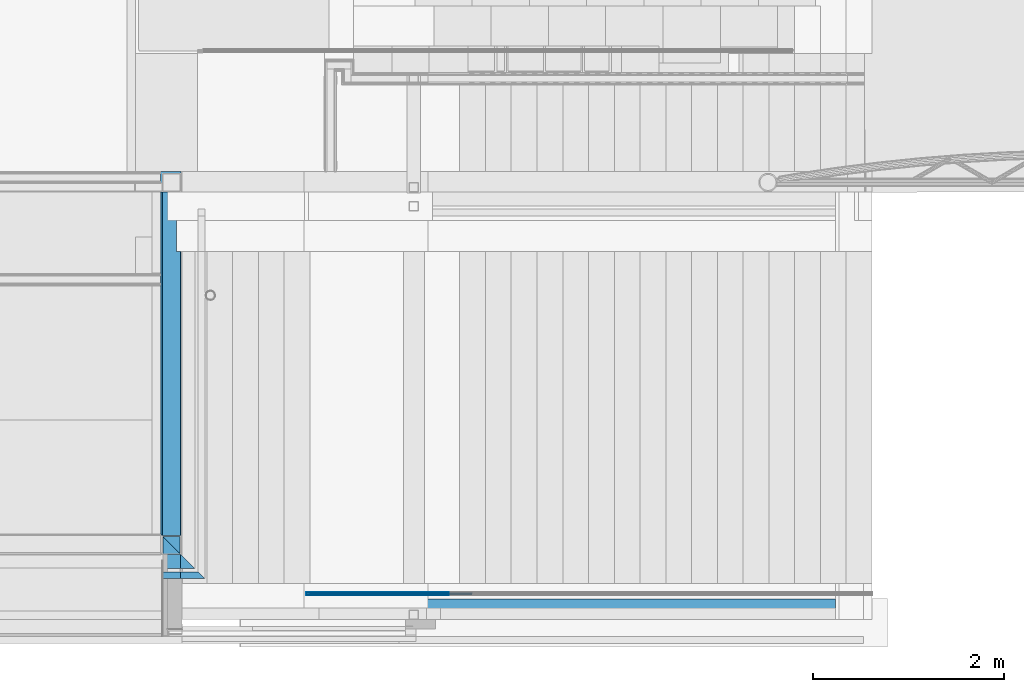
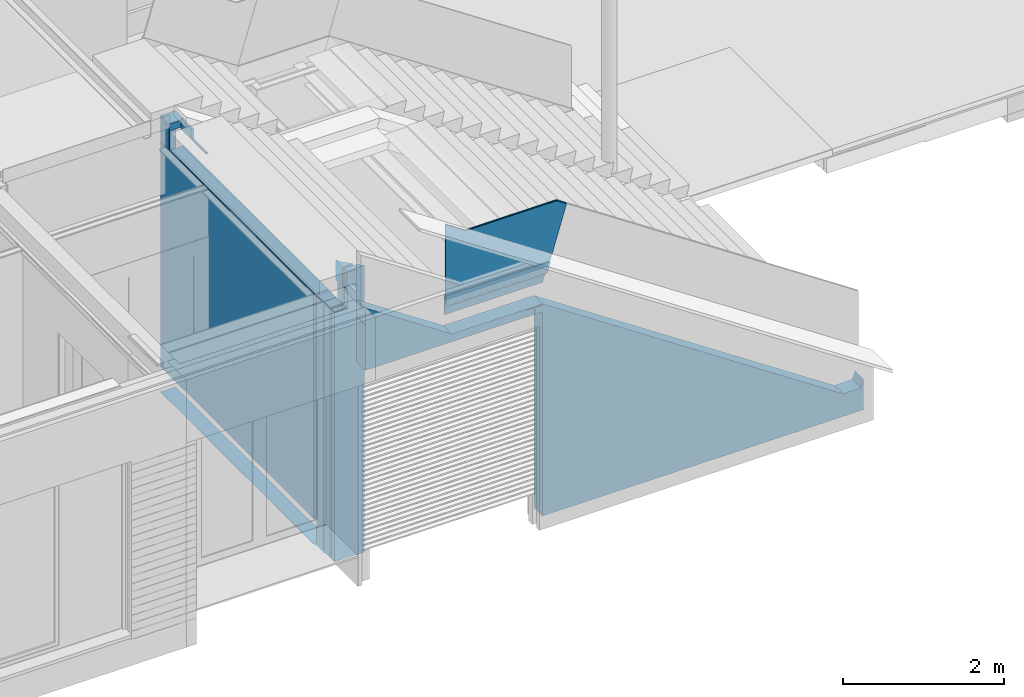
# One storey, part 46 of 165: 10 building element parts, 2 openings, 5 elements without a shape of their own.
"""IFC2X3 building model written with IfcOpenShell, lengths in millimetres."""

from ifc_helpers import new_model, entity, si_unit, converted_unit, derived_unit, money_unit, direction, frame, origin_with_axes, place, context, subcontext, project, spatial, faceted_brep, material, type_object, element, aggregate, save


model = new_model("IFC2X3")

# Units and contexts
model_context = context("Model", 3, precision=0.01, world=origin_with_axes(), true_north=direction((0.0, 1.0)))
body_context = subcontext(model_context, "Body", "Model", "MODEL_VIEW")
ifc_project = project(units=[si_unit("LENGTHUNIT", "METRE", prefix="MILLI"), si_unit("AREAUNIT", "SQUARE_METRE"), si_unit("VOLUMEUNIT", "CUBIC_METRE"), converted_unit("PLANEANGLEUNIT", "DEGREE", entity("IfcPlaneAngleMeasure", 0.0174532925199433), si_unit("PLANEANGLEUNIT", "RADIAN"), dimensions=[0, 0, 0, 0, 0, 0, 0]), money_unit("EUR"), converted_unit("TIMEUNIT", "Year", entity("IfcTimeMeasure", 31556926.0), si_unit("TIMEUNIT", "SECOND"), dimensions=[0, 0, 1, 0, 0, 0, 0]), si_unit("MASSUNIT", "GRAM", prefix="KILO"), si_unit("THERMODYNAMICTEMPERATUREUNIT", "DEGREE_CELSIUS"), si_unit("LUMINOUSINTENSITYUNIT", "LUMEN"), si_unit("ENERGYUNIT", "JOULE", prefix="MEGA"), derived_unit("THERMALCONDUCTANCEUNIT", [(si_unit("POWERUNIT", "WATT"), 1), (si_unit("LENGTHUNIT", "METRE"), -1), (si_unit("THERMODYNAMICTEMPERATUREUNIT", "KELVIN"), -1)]), derived_unit("SPECIFICHEATCAPACITYUNIT", [(si_unit("ENERGYUNIT", "JOULE"), 1), (si_unit("MASSUNIT", "GRAM", prefix="KILO"), -1), (si_unit("THERMODYNAMICTEMPERATUREUNIT", "KELVIN"), -1)]), derived_unit("MASSDENSITYUNIT", [(si_unit("MASSUNIT", "GRAM", prefix="KILO"), 1), (si_unit("VOLUMEUNIT", "CUBIC_METRE"), -1)])], contexts=[model_context])

# Site, building, storey
site_placement = place(None, origin_with_axes())
site = spatial("IfcSite", under=ifc_project, at=site_placement, Name="Site", CompositionType="ELEMENT")
building_placement = place(site_placement, origin_with_axes())
building = spatial("IfcBuilding", under=site, at=building_placement, Name="Naam gebouw", CompositionType="ELEMENT")
storey_placement = place(building_placement, origin_with_axes())
storey = spatial("IfcBuildingStorey", under=building, at=storey_placement, Name="Begane grond", CompositionType="ELEMENT", Elevation=0.0)

# Wall, building element part
wall_type_1 = type_object("IfcWallType", Name="21 Buitenwand spouwmuur kalkzandsteen 464", PredefinedType="NOTDEFINED")
wall_1_placement = place(storey_placement, frame((11550.0, 679.9999999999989, -485.0), z_axis=(0.0, 0.0, 1.0), x_axis=(0.0, 1.0, 0.0)))
wall_1 = element("IfcWall", 1, at=wall_1_placement, inside=storey, type_object=wall_type_1, Name="21_Wand-x")
ifc_material_1 = material(Name="Steen - Kalkzandsteen C")
building_element_part_1_placement = place(wall_1_placement, origin_with_axes())
building_element_part_1 = element("IfcBuildingElementPart", 2, at=building_element_part_1_placement, material=ifc_material_1, Name="Steen - Kalkzandsteen C", context=body_context, shape_type="Brep", body=[
    faceted_brep([(3549.982367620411, 47.75988148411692, 4223.198134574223), (3549.982367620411, 0.0, 4191.358213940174), (3800.000000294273, 0.0, 4191.358213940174), (3799.999994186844, 5.462679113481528, 4194.999999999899), (3799.999999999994, 47.75988115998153, 4223.198134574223), (3549.982367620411, 0.0, 4055.000000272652), (3549.982367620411, 47.75988148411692, 4080.777949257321), (3549.982367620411, 9.092957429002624, 4055.0), (3800.0, 0.0, 4055.000000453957), (3800.0, 0.0, 4084.999999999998), (3999.999999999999, 0.0, 4084.999999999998), (3999.999999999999, 0.0, 4055.000000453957), (3999.999999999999, 0.0, 3775.000000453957), (3999.999999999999, 0.0, 384.9999999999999), (4014.0, 2.788986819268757e-07, 384.9999999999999), (4014.0, 2.788986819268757e-07, 4194.999999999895), (3799.999993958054, 2.075850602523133e-08, 4194.999999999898), (3799.999999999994, 47.75988115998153, 4194.999999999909), (3799.999999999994, 47.75988115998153, 4084.999999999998), (3799.999999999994, 47.75988115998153, 4055.0), (3174.000000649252, 47.75988115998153, 4055.0), (3174.000000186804, 47.75988148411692, 4080.777949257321), (3174.000000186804, 9.092957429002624, 4055.0), (3799.999999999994, 199.9999999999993, 4084.999999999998), (3999.999999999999, 199.9999999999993, 4084.999999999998), (3999.999999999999, 213.9999762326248, 3775.000000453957), (3999.999999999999, 199.9999999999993, 3775.000000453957), (3999.999999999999, 199.9999999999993, 384.9999999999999), (3999.999999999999, 199.9999999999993, 4055.000000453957), (3999.999999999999, 200.9999999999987, 4055.000000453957), (3999.999999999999, 200.9999999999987, 3790.000000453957), (3999.999999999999, 213.9999762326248, 3790.000000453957), (200.0000000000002, 199.9999999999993, 384.9999999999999), (213.9999762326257, 213.9999762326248, 384.9999999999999), (4014.0, 213.9999993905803, 384.9999999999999), (3800.0, 199.9999999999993, 384.9999999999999), (3800.001049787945, -1.527666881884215e-10, 384.9999999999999), (200.0000000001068, 0.0006153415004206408, 384.9999999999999), (4014.0, 213.9999993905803, 4194.999999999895), (3810.0, 199.9999999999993, 4194.999999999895), (3799.999999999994, 199.9999999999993, 4194.999999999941), (3810.0, 213.9999762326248, 4194.999999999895), (3799.999999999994, 199.9999999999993, 4130.000000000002), (3799.999999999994, 213.9999762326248, 4130.000000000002), (3799.999999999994, 213.9999762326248, 4055.0), (3799.999999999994, 200.9999999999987, 4055.0), (3799.999999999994, 199.9999999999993, 4055.0), (200.0000000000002, 0.0, 3775.000000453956), (3800.0, 0.0, 3775.000000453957), (3800.0, 199.9999999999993, 3775.000000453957), (213.9999762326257, 213.9999762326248, 3775.000000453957), (200.0000000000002, 199.9999999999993, 3775.000000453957), (3799.999999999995, 200.9999999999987, 3795.0), (201.0000007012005, 200.9999999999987, 3795.0), (201.0000115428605, 200.999999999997, 3790.000000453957), (213.9999762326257, 213.9999762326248, 3790.000000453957), (3799.999999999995, 213.9999762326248, 3795.0), (3900.0, 213.9999762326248, 4130.000000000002), (3900.0, 213.9999762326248, 4140.000000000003), (3810.0, 213.9999762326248, 4140.000000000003), (213.9999762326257, 213.9999762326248, 3795.0), (3900.0, 199.9999999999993, 4130.000000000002), (3810.0, 199.9999999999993, 4140.000000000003), (3900.0, 199.9999999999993, 4140.000000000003)], [[[0, 1, 2, 3, 4]], [[5, 1, 0, 6, 7]], [[1, 5, 8, 9, 10, 11, 12, 13, 14, 15, 16, 2]], [[2, 16, 3]], [[3, 17, 4]], [[6, 0, 4, 17, 18, 19, 20, 21]], [[22, 7, 6, 21]], [[7, 22, 20, 19, 8, 5]], [[8, 19, 18, 9]], [[9, 18, 23, 24, 10]], [[25, 26, 27, 13, 12, 11, 10, 24, 28, 29, 30, 31]], [[32, 33, 34, 14, 13, 27, 35, 36, 37]], [[38, 15, 14, 34]], [[39, 40, 17, 3, 16, 15, 38, 41]], [[18, 17, 40, 42, 43, 44, 45, 46, 23]], [[22, 21, 20]], [[24, 23, 46, 28]], [[47, 48, 49, 26, 25, 50, 51]], [[26, 49, 35, 27]], [[28, 46, 45, 29]], [[29, 45, 52, 53, 54, 30]], [[55, 31, 30, 54]], [[56, 44, 43, 57, 58, 59, 41, 38, 34, 33, 50, 25, 31, 55, 60]], [[51, 50, 33, 32]], [[49, 48, 36, 35]], [[48, 47, 37, 36]], [[47, 51, 32, 37]], [[61, 42, 40, 39, 62, 63]], [[39, 41, 59, 62]], [[57, 43, 42, 61]], [[52, 45, 44, 56]], [[52, 56, 60, 53]], [[53, 60, 55, 54]], [[57, 61, 63, 58]], [[58, 63, 62, 59]]]),
    faceted_brep([(200.0000000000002, 194.9999999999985, 3795.0), (200.0000000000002, 4.999999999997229, 3795.0), (3800.0, 4.999999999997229, 3795.0), (3800.0, 194.9999999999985, 3795.0), (200.0000000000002, 4.999999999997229, 3790.000000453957), (200.0000000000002, 194.9999999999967, 3790.000000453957), (3800.0, 4.999999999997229, 3790.000000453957), (3800.0, 194.9999999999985, 3790.000000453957)], [[[0, 1, 2, 3]], [[4, 1, 0, 5]], [[1, 4, 6, 2]], [[3, 2, 6, 7]], [[5, 0, 3, 7]], [[4, 5, 7, 6]]]),
    faceted_brep([(4014.0, 213.9999993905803, 5.000000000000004), (4014.0, 2.788986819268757e-07, 5.000000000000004), (4014.0, 2.788986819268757e-07, 0.0), (4014.0, 213.9999993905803, 0.0), (3999.999999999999, 0.0, 5.000000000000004), (213.9999762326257, 213.9999762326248, 5.000000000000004), (200.0000000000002, 199.9999999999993, 5.000000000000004), (199.9999999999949, 0.0006153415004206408, 5.000000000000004), (3800.001049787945, -1.527666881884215e-10, 5.000000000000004), (3800.0, 199.9999999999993, 5.000000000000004), (3999.999999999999, 199.9999999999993, 5.000000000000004), (0.0, 0.0, 4.99999999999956), (1.147390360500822e-05, 1.147390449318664e-05, 0.0), (213.9999762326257, 213.9999762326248, 0.0)], [[[0, 1, 2, 3]], [[4, 1, 0, 5, 6, 7, 8, 9, 10]], [[8, 7, 11, 12, 2, 1, 4]], [[13, 3, 2, 12]], [[5, 0, 3, 13]], [[6, 5, 13, 12, 11]], [[7, 6, 11]], [[9, 8, 4, 10]]]),
])
aggregate(wall_1, [building_element_part_1])

# Column, building element part
column_type = type_object("IfcColumnType", Name="200X200X10 200 x 200", PredefinedType="COLUMN")
column_placement = place(storey_placement, frame((11450.00000000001, 779.9999999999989, -480.0), z_axis=(0.0, 0.0, 1.0), x_axis=(1.0, 0.0, 0.0)))
column = element("IfcColumn", 3, at=column_placement, inside=storey, type_object=column_type, Name="28_Kolom-x", ObjectType="COLUMN")
ifc_material_2 = material(Name="Beton gewapend C")
building_element_part_2_placement = place(column_placement, origin_with_axes())
building_element_part_2 = element("IfcBuildingElementPart", 4, at=building_element_part_2_placement, material=ifc_material_2, Name="Beton gewapend C", context=body_context, shape_type="Brep", body=[
    faceted_brep([(-89.99999999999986, 89.99999999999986, 3770.000000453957), (89.99999999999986, 89.99999999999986, 3770.000000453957), (89.99999999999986, 89.99999999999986, 0.0), (-89.99999999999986, 89.99999999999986, 0.0), (89.99999999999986, -89.99999999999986, 3770.000000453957), (-89.99999999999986, -89.99999999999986, 3770.000000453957), (89.99999999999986, -89.99999999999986, 0.0), (-89.99999999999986, -89.99999999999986, 0.0)], [[[0, 1, 2, 3]], [[4, 1, 0, 5]], [[1, 4, 6, 2]], [[2, 6, 7, 3]], [[5, 0, 3, 7]], [[4, 5, 7, 6]]]),
    faceted_brep([(89.99999999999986, -89.99999999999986, 3785.000000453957), (89.99999999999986, 89.99999999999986, 3785.000000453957), (89.99999999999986, 89.99999999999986, 3790.0), (89.99999999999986, -89.99999999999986, 3790.0), (-89.99999999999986, 89.99999999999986, 3785.000000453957), (-89.99999999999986, -89.99999999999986, 3785.000000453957), (-89.99999999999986, 89.99999999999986, 3790.0), (-89.99999999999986, -89.99999999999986, 3790.0)], [[[0, 1, 2, 3]], [[4, 1, 0, 5]], [[1, 4, 6, 2]], [[2, 6, 7, 3]], [[5, 0, 3, 7]], [[4, 5, 7, 6]]]),
])
aggregate(column, [building_element_part_2])

# Wall, opening, building element part
wall_type_2 = type_object("IfcWallType", Name="21 Buitenwand spouwmuur excl. isolatie 464", PredefinedType="NOTDEFINED")
wall_2_placement = place(storey_placement, frame((11560.00000000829, -0.0002238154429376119, -585.0000000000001), z_axis=(0.0, 0.0, 1.0), x_axis=(1.0, 0.0, 0.0)))
wall_2 = element("IfcWall", 5, at=wall_2_placement, inside=storey, type_object=wall_type_2, Name="21_Wand-x")
opening_1_placement = place(wall_2_placement, frame((1539.999999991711, 0.0, 575.0000000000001), z_axis=(0.0, 0.0, 1.0), x_axis=(1.0, 0.0, 0.0)))
element("IfcOpeningElement", 6, at=opening_1_placement, cuts=wall_2, Name="_Merk AK", context=body_context, shape_type="Brep", body=[
    faceted_brep([(-1800.000000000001, -71.99999999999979, -599.9999999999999), (-1800.000000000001, -71.99999999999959, 2620.0), (-1800.000000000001, 215.0000000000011, 2620.0), (-1800.000000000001, 215.0000000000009, -610.0000000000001), (-1800.000000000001, -71.9999999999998, -610.0000000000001), (-1800.000000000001, -116.9999999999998, -599.9999999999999), (-1800.000000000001, -116.9999999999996, 2620.0), (800.0000000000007, -71.9999999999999, 2620.0), (1000.0, -71.99999999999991, 2620.0), (1000.0, 215.0000000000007, 2620.0), (800.0000000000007, -116.9999999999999, 2620.0), (1000.0, 215.0000000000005, -610.0000000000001), (1000.0, -72.00000000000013, -610.0000000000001), (800.0000000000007, -72.0000000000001, -599.9999999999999), (800.0000000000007, -117.0000000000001, -599.9999999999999), (-1800.000000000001, -116.9999999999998, -800.0), (-1800.000000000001, -251.0000000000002, -800.0), (-1800.000000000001, -251.0, 2620.0), (810.0000000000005, -251.0000000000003, 2620.0), (810.0000000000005, -116.9999999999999, 2620.0), (810.0000000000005, -117.0000000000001, -800.0), (810.0000000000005, -251.0000000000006, -800.0)], [[[0, 1, 2, 3, 4]], [[1, 0, 5, 6]], [[7, 8, 9, 2, 1, 6, 10]], [[9, 11, 3, 2]], [[12, 4, 3, 11]], [[13, 0, 4, 12, 8, 7]], [[0, 13, 14, 5]], [[6, 5, 15, 16, 17]], [[8, 12, 11, 9]], [[10, 6, 17, 18, 19]], [[13, 7, 10, 14]], [[14, 10, 19, 20, 15, 5]], [[15, 20, 21, 16]], [[17, 16, 21, 18]], [[20, 19, 18, 21]]]),
])
building_element_part_3_placement = place(wall_2_placement, origin_with_axes())
building_element_part_3 = element("IfcBuildingElementPart", 7, at=building_element_part_3_placement, material=ifc_material_1, Name="Steen - Kalkzandsteen C", context=body_context, shape_type="Brep", body=[
    faceted_brep([(6845.907025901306, 214.0000000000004, 444.9999998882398), (7103.666348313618, 214.0000000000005, 444.9999998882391), (7139.999424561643, 214.0000000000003, 564.9999999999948), (7139.999424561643, 214.0000000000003, 99.99999999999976), (2539.999999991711, 214.0, 99.99999999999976), (2539.999999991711, 214.0000000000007, 3090.0), (2539.999999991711, 214.0000000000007, 3106.0), (2539.999999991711, 214.0000000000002, 3195.0), (2434.749999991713, 214.0000000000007, 3195.0), (2434.749999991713, 214.0000000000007, 3294.0), (2539.999999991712, 214.0000000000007, 3294.0), (2539.999999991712, 214.0000000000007, 3310.0), (2319.999999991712, 214.0000000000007, 3310.0), (2319.999999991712, 214.0000000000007, 3294.0), (2425.249999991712, 214.0000000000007, 3294.0), (2425.249999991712, 214.0000000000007, 3195.0), (0.0, 214.0000000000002, 3195.0), (0.0, 214.0000000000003, 3875.000000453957), (5.999999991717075, 214.0000000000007, 3875.000000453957), (5.999999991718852, 214.0000000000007, 3890.000000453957), (0.0, 214.0000000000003, 3890.000000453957), (0.0, 214.0000000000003, 4142.271361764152), (1240.875856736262, 214.0000000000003, 3315.020793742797), (1240.875856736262, 214.0000000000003, 3314.999999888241), (2540.907007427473, 214.0000000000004, 3314.999999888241), (6845.907025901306, 0.0002059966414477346, 444.9999998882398), (7103.666348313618, 0.0002059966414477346, 444.9999998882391), (7139.999424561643, 0.0002063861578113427, 564.9999999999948), (7139.999424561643, 0.0, 100.0000000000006), (2539.999999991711, 0.0, 100.0000000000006), (2539.999999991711, 0.0002238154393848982, 3090.0), (2539.999999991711, 0.0002238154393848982, 3106.0), (2539.999999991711, 0.0002238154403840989, 3195.0), (2434.749999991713, 0.0002238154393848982, 3195.0), (2434.749999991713, 0.0002238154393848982, 3294.0), (2539.999999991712, 0.0002238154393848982, 3294.0), (2539.999999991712, 0.0002238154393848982, 3310.0), (2319.999999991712, 0.0002238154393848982, 3310.0), (2319.999999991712, 0.0002238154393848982, 3294.0), (2425.249999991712, 0.0002238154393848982, 3294.0), (2425.249999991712, 0.0002238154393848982, 3195.0), (0.0, 0.0001834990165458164, 3195.0), (0.0, 0.0002238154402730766, 3875.000000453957), (5.999999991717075, 0.0002238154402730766, 3875.000000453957), (5.999999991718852, 0.0002238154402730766, 3890.000000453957), (0.0, 0.0002238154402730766, 3890.000000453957), (1.190159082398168e-10, 0.0002240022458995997, 4142.271361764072), (1240.875856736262, 0.0002243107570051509, 3315.020793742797), (1240.875856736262, 0.0002243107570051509, 3314.999999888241), (2540.907007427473, 0.0002243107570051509, 3314.999999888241)], [[[0, 1, 2, 3, 4, 5, 6, 7, 8, 9, 10, 11, 12, 13, 14, 15, 16, 17, 18, 19, 20, 21, 22, 23, 24]], [[1, 0, 25, 26]], [[27, 2, 1, 26]], [[2, 27, 28, 3]], [[28, 29, 4, 3]], [[29, 30, 5, 4]], [[30, 31, 6, 5]], [[32, 7, 6, 31]], [[33, 8, 7, 32]], [[9, 8, 33, 34]], [[35, 10, 9, 34]], [[36, 11, 10, 35]], [[37, 12, 11, 36]], [[38, 13, 12, 37]], [[39, 14, 13, 38]], [[39, 40, 15, 14]], [[41, 16, 15, 40]], [[17, 16, 41, 42]], [[43, 18, 17, 42]], [[44, 19, 18, 43]], [[45, 20, 19, 44]], [[20, 45, 46, 21]], [[46, 47, 22, 21]], [[48, 23, 22, 47]], [[49, 24, 23, 48]], [[25, 0, 24, 49]], [[26, 25, 49, 48, 47, 46, 45, 44, 43, 42, 41, 40, 39, 38, 37, 36, 35, 34, 33, 32, 31, 30, 29, 28, 27]]]),
])
aggregate(wall_2, [building_element_part_3])

# Wall, opening, building element parts
wall_3_placement = place(storey_placement, frame((11550.0, 679.9999999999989, -485.0), z_axis=(0.0, 0.0, 1.0), x_axis=(-1.0, 0.0, 0.0)))
wall_3 = element("IfcWall", 8, at=wall_3_placement, inside=storey, type_object=wall_type_1, Name="21_Wand-x")
opening_2_placement = place(wall_3_placement, frame((1368.000000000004, 0.0, 65.00000000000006), z_axis=(0.0, 0.0, 1.0), x_axis=(1.0, 0.0, 0.0)))
element("IfcOpeningElement", 9, at=opening_2_placement, cuts=wall_3, Name="_-", context=body_context, shape_type="Brep", body=[
    faceted_brep([(-1182.0, 76.99999999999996, -200.0000000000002), (1178.000000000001, 76.99999999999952, -200.0000000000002), (1178.000000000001, 76.99999999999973, 4030.0), (-1182.0, 77.00000000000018, 4030.0), (-1154.000000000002, 76.99999999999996, 10.00000000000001), (-1154.000000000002, 77.00000000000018, 3020.0), (1157.000000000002, 76.99999999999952, 3020.0), (1157.000000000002, 76.99999999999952, 10.00000000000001), (-1182.0, 251.0, -200.0000000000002), (1178.000000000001, 250.9999999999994, -200.0000000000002), (1178.000000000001, 250.9999999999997, 4030.0), (-1182.0, 251.0000000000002, 4030.0), (-1154.000000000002, -215.0000000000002, 10.00000000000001), (-1154.000000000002, -215.0, 3020.0), (1157.000000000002, -215.0000000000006, 3020.0), (1157.000000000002, -215.0000000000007, 10.00000000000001)], [[[0, 1, 2, 3], [4, 5, 6, 7]], [[1, 0, 8, 9]], [[2, 1, 9, 10]], [[3, 2, 10, 11]], [[0, 3, 11, 8]], [[5, 4, 12, 13]], [[6, 5, 13, 14]], [[7, 6, 14, 15]], [[4, 7, 15, 12]], [[10, 9, 8, 11]], [[13, 12, 15, 14]]]),
])
ifc_material_3 = material(Name="Steen - Kalkzandsteen")
building_element_part_4_placement = place(wall_3_placement, origin_with_axes())
building_element_part_4 = element("IfcBuildingElementPart", 10, at=building_element_part_4_placement, material=ifc_material_3, Name="Steen - Kalkzandsteen", context=body_context, shape_type="Brep", body=[
    faceted_brep([(186.0000000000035, 250.0, 3795.0), (4.999999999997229, 249.9999768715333, 3795.0), (4.999999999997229, 180.0000039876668, 3795.0), (186.0000000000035, 180.0000000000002, 3795.0), (186.0000000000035, 250.0, 3790.000000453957), (4.999999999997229, 249.9999762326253, 3790.000000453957), (4.999999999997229, 180.0000000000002, 3790.000000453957), (186.0000000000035, 180.0000000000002, 3790.000000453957)], [[[0, 1, 2, 3]], [[4, 5, 1, 0]], [[5, 6, 2, 1]], [[2, 6, 7, 3]], [[3, 7, 4, 0]], [[4, 7, 6, 5]]]),
    faceted_brep([(4.999999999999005, 180.0000000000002, 4055.000000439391), (4.999999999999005, 180.0000020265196, 4345.0), (-180.000004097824, 180.0000040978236, 4345.0), (-180.000004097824, 180.0000040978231, 0.0), (186.0000000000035, 180.0000000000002, 0.0), (186.0000000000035, 180.0000000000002, 3775.000000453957), (-16.00000000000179, 180.0000000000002, 3775.000000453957), (-16.00000000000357, 180.0000000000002, 3790.000000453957), (-1.000000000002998, 180.0000000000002, 3790.000000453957), (-1.000000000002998, 180.0000000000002, 4055.000000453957), (4.999999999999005, 249.9999901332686, 4345.0), (4.999999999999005, 249.9999769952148, 4055.000000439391), (-250.0, 249.9999762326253, 4345.0), (-250.0, 249.9999762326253, 0.0), (186.0000000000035, 250.0, 0.0), (186.0000000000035, 250.0, 3775.000000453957), (-16.00000000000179, 249.9999762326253, 3775.000000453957), (-16.00000000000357, 249.9999762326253, 3790.000000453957), (-1.000000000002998, 249.9999762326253, 3790.000000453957), (-1.000000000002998, 249.9999762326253, 4055.000000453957)], [[[0, 1, 2, 3, 4, 5, 6, 7, 8, 9]], [[10, 1, 0, 11]], [[1, 10, 12, 2]], [[12, 13, 3, 2]], [[13, 14, 4, 3]], [[14, 15, 5, 4]], [[16, 6, 5, 15]], [[17, 7, 6, 16]], [[18, 8, 7, 17]], [[19, 9, 8, 18]], [[11, 0, 9, 19]], [[10, 11, 19, 18, 17, 16, 15, 14, 13, 12]]]),
])
building_element_part_5_placement = place(wall_3_placement, origin_with_axes())
building_element_part_5 = element("IfcBuildingElementPart", 11, at=building_element_part_5_placement, material=ifc_material_1, Name="Steen - Kalkzandsteen C", context=body_context, shape_type="Brep", body=[
    faceted_brep([(4.999999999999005, -4.999971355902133, 4055.0), (4.999999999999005, -4.999999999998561, 4345.0), (-2.950432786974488e-05, 2.950432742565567e-05, 4345.0), (-6.895817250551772e-08, 2.950432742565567e-05, 4055.0), (4.999999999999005, 2.871119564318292e-05, 4345.0), (4.999999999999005, 2.871120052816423e-05, 4055.0)], [[[0, 1, 2, 3]], [[4, 1, 0, 5]], [[1, 4, 2]], [[4, 5, 3, 2]], [[5, 0, 3]]]),
    faceted_brep([(186.0000000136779, -186.0000000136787, 5.000000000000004), (0.0, 0.0, 5.000000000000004), (-2.950432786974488e-05, 2.950432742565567e-05, 0.0), (186.0000000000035, -186.0000000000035, 0.0), (186.0000000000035, 0.0, 5.000000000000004), (186.0000000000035, 0.0, 0.0)], [[[0, 1, 2, 3]], [[1, 0, 4]], [[1, 4, 5, 2]], [[3, 2, 5]], [[0, 3, 5, 4]]]),
])
ifc_material_4 = material(Name="Isolatie - Steenwol zacht")
building_element_part_6_placement = place(wall_3_placement, origin_with_axes())
building_element_part_6 = element("IfcBuildingElementPart", 12, at=building_element_part_6_placement, material=ifc_material_4, Name="Isolatie - Steenwol zacht", context=body_context, shape_type="Brep", body=[
    faceted_brep([(186.0000000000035, 0.0, 3795.0), (186.0000000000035, 145.0000000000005, 3795.0), (4.999999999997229, 145.0000175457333, 3795.0), (4.999999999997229, 2.871119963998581e-05, 3795.0), (186.0000000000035, 0.0, 3790.000000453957), (186.0000000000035, 145.0000000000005, 3790.000000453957), (4.999999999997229, 145.0000180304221, 3790.000000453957), (4.999999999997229, 0.0, 3790.000000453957)], [[[0, 1, 2, 3]], [[1, 0, 4, 5]], [[1, 5, 6, 2]], [[2, 6, 7, 3]], [[0, 3, 7, 4]], [[6, 5, 4, 7]]]),
    faceted_brep([(4.999999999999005, 2.871120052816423e-05, 4055.0), (4.999999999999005, 2.871119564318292e-05, 4345.0), (-2.950432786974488e-05, 2.950432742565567e-05, 4345.0), (-6.895817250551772e-08, 2.950432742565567e-05, 4055.0), (4.999999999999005, 145.0000098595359, 4345.0), (4.999999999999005, 145.0000174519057, 4055.000000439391), (-145.000018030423, 145.0000180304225, 4345.0), (-145.000018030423, 145.0000180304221, 0.0), (-2.950432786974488e-05, 2.950432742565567e-05, 0.0), (-2.240856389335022e-07, 2.950432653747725e-05, 3775.000000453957), (-16.00000000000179, 16.00002943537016, 3775.000000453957), (-16.00000000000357, 16.00002943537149, 3790.000000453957), (-1.000000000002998, 1.000029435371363, 3790.000000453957), (-1.000000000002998, 1.000029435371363, 4055.000000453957), (-1.000000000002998, 145.0000180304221, 4055.000000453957), (-1.000000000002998, 145.0000180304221, 3790.000000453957), (-16.00000000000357, 145.0000180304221, 3790.000000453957), (-16.00000000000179, 145.0000180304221, 3775.000000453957), (186.0000000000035, 145.0000000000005, 3775.000000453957), (186.0000000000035, 145.0, 0.0), (186.0000000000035, 0.0, 0.0), (186.0000000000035, 0.0, 3775.000000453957)], [[[0, 1, 2, 3]], [[4, 1, 0, 5]], [[1, 4, 6, 2]], [[7, 8, 9, 10, 11, 12, 13, 3, 2, 6]], [[5, 0, 3, 13, 14]], [[4, 5, 14, 15, 16, 17, 18, 19, 7, 6]], [[8, 7, 19, 20]], [[8, 20, 21, 9]], [[18, 17, 10, 9, 21]], [[17, 16, 11, 10]], [[16, 15, 12, 11]], [[15, 14, 13, 12]], [[20, 19, 18, 21]]]),
])
aggregate(wall_3, [building_element_part_4, building_element_part_5, building_element_part_6])

# Beam, building element parts
beam_type = type_object("IfcBeamType", Name="34 Glas balustrade binnen 50 x 1800", PredefinedType="BEAM")
beam_placement = place(storey_placement, frame((14470.00009135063, 300.0000365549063, 3125.000000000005), z_axis=(0.0, 0.0, 1.0), x_axis=(-1.973294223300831e-07, 0.9999999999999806, 0.0)))
beam = element("IfcBeam", 13, at=beam_placement, inside=storey, type_object=beam_type, Name="_Regenwaterafvoer-x", ObjectType="BEAM")
ifc_material_5 = material(Name="Glas")
building_element_part_7_placement = place(beam_placement, origin_with_axes())
building_element_part_7 = element("IfcBuildingElementPart", 14, at=building_element_part_7_placement, material=ifc_material_5, Name="Glas", context=body_context, shape_type="Brep", body=[
    faceted_brep([(-19.99999211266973, 232.0505823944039, 894.7893918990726), (-19.99999211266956, 12.16346664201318, 894.7931858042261), (-19.99999211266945, -129.7718722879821, 800.1696530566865), (-19.99999211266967, 112.5000039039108, 1.665824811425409e-06), (-19.99999211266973, 1608.260183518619, 1.665824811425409e-06), (-19.99999211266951, 1608.260183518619, 1090.912111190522), (-19.99999211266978, 1312.081897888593, 894.8099560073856), (-19.99999211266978, 1312.081897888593, 894.7720372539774), (-22.45449237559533, 1312.829673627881, 892.3162567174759), (-22.47692688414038, 12.91342254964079, 892.3162509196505), (-22.47694830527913, -129.0219099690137, 797.6926967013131), (-38.000268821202, -127.3112166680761, 792.0426663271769), (-39.99999585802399, -127.3641890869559, 792.2176230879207), (-39.99999585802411, 112.5000061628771, 1.665824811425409e-06), (-39.99999585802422, 136.7916959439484, -80.22999964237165), (-19.99999211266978, 136.791693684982, -80.22999964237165), (-25.92526896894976, -128.2908456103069, 795.2781564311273), (-29.7404824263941, -127.7521881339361, 793.4990930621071), (-33.80666534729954, -127.4223043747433, 792.4095625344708), (-19.99999211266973, 1608.260183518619, -80.22999964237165), (-21.33488172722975, 1608.26018351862, 1089.307258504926), (-39.99999585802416, 1608.26018351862, -80.22999964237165), (-39.99999585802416, 1608.26018351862, 1.665824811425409e-06), (-39.99999585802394, 1608.26018351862, 1082.826023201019), (-37.77679418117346, 1608.26018351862, 1082.594799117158), (-36.86192976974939, 1608.26018351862, 1082.499501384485), (-33.58329578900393, 1608.260183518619, 1082.847986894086), (-32.66806359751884, 1608.260183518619, 1082.945119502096), (-29.48930186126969, 1608.260183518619, 1083.97226112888), (-28.60115497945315, 1608.260183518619, 1084.259096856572), (-25.61754488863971, 1608.26018351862, 1085.934131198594), (-24.78477480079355, 1608.26018351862, 1086.401508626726), (-22.08946594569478, 1608.26018351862, 1088.671813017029), (-22.45449237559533, 1312.829673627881, 892.3541754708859), (-25.90155404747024, 1313.56667221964, 889.9017168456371), (-25.92524754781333, 13.64448701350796, 889.9017107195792), (-39.99999585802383, 14.57114340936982, 886.8411753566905), (-38.00024740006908, 14.62411531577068, 886.6662200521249), (-39.99999585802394, 1314.51693551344, 886.8813172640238), (-39.99999585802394, 1314.51693551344, 886.8433963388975), (-29.74046100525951, 14.18314460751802, 888.1226474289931), (-33.80664392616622, 14.51302849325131, 887.0331169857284), (-37.97486684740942, 1314.567089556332, 886.7041495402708), (-33.78145468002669, 1314.448781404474, 887.071042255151), (-29.71583986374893, 1314.111896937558, 888.1605725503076), (-25.90155404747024, 1313.56667221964, 889.9396355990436), (-37.97486684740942, 1314.567089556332, 886.6662265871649), (-29.71583986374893, 1314.111896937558, 888.1226537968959), (-33.78145468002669, 1314.448781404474, 887.0331193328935)], [[[0, 1, 2, 3, 4, 5, 6, 7]], [[1, 0, 8, 9]], [[10, 2, 1, 9]], [[11, 12, 13, 14, 15, 3, 2, 10, 16, 17, 18]], [[15, 19, 4, 3]], [[20, 5, 4, 19, 21, 22, 23, 24, 25, 26, 27, 28, 29, 30, 31, 32]], [[6, 5, 20, 33]], [[7, 6, 33, 8]], [[0, 7, 8]], [[9, 8, 34]], [[16, 10, 9, 35]], [[36, 12, 11, 37]], [[38, 23, 22, 13, 12, 36, 39]], [[13, 22, 21, 14]], [[14, 21, 19, 15]], [[17, 16, 35, 40]], [[18, 17, 40, 41]], [[11, 18, 41, 37]], [[23, 38, 42, 24]], [[25, 24, 42]], [[26, 25, 42, 43]], [[27, 26, 43]], [[28, 27, 43, 44]], [[29, 28, 44]], [[30, 29, 44, 45]], [[31, 30, 45]], [[32, 31, 45, 33]], [[20, 32, 33]], [[45, 34, 8, 33]], [[35, 9, 34]], [[39, 36, 37, 46]], [[38, 39, 46, 42]], [[40, 35, 47]], [[41, 40, 48]], [[37, 41, 48, 46]], [[48, 43, 42, 46]], [[43, 48, 47, 44]], [[34, 45, 44, 47]], [[35, 34, 47]], [[48, 40, 47]]]),
])
building_element_part_8_placement = place(beam_placement, origin_with_axes())
building_element_part_8 = element("IfcBuildingElementPart", 15, at=building_element_part_8_placement, material=ifc_material_5, Name="Glas", context=body_context, shape_type="Brep", body=[
    faceted_brep([(-44.99800116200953, 112.5000072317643, 0.0), (-44.99800116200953, 1608.26018351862, 0.0), (-44.99800116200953, 1608.26018351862, -80.22999964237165), (-44.99800116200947, 136.7916965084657, -80.22999964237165), (-39.99999940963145, 112.500006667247, 0.0), (-39.99999940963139, 1608.26018351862, 0.0), (-39.99999940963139, 1608.26018351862, -80.22999964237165), (-39.99999940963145, 136.7916959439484, -80.22999964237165)], [[[0, 1, 2, 3]], [[4, 5, 1, 0]], [[2, 1, 5, 6]], [[3, 2, 6, 7]], [[4, 0, 3, 7]], [[7, 6, 5, 4]]]),
])
ifc_material_6 = material(Name="Metaal - Staal C")
building_element_part_9_placement = place(beam_placement, origin_with_axes())
building_element_part_9 = element("IfcBuildingElementPart", 16, at=building_element_part_9_placement, material=ifc_material_6, Name="Metaal - Staal C", context=body_context, shape_type="Brep", body=[
    faceted_brep([(-54.99800116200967, 157.9163539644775, -149.9999999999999), (-54.99800116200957, 1608.26018351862, -149.9999999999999), (-44.99800116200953, 1608.26018351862, -149.9999999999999), (-44.99800116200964, 157.9163528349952, -149.9999999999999), (-54.99800116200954, 112.5000083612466, 0.0), (-54.99800116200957, 1608.26018351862, 0.0), (-44.99800116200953, 1608.26018351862, 0.0), (-44.99800116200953, 1608.26018351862, -80.22999964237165), (-44.99800116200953, 1608.26018351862, -84.9999993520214), (-15.00000000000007, 1608.260183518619, -84.9999993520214), (-14.99999940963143, 1608.26018351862, -80.22999964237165), (-15.00000000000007, 1608.260183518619, 0.0), (-4.999999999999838, 1608.260183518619, 0.0), (-5.00000000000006, 1608.260183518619, -299.9999999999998), (-15.00000000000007, 1608.260183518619, -299.9999999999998), (-15.00000000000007, 1608.260183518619, -124.9999993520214), (-44.99800116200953, 1608.26018351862, -124.9999993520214), (-15.00000000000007, 1608.260183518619, -94.99999935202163), (-44.99800116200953, 1608.26018351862, -94.99999935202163), (-44.99800116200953, 1608.26018351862, -114.9999993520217), (-15.00000000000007, 1608.260183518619, -114.9999993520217), (-44.99800116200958, 150.3469617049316, -124.9999993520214), (-15.00000000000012, 150.3469583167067, -124.9999993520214), (-15.00000000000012, 203.3326950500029, -299.9999999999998), (-5.000000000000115, 203.3326939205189, -299.9999999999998), (-5.00000000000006, 112.500002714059, 0.0), (-15.00000000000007, 112.5000038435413, 0.0), (-14.99999940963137, 136.7916931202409, -80.22999964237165), (-15.00000000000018, 138.2359328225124, -84.9999993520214), (-44.99800116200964, 138.2359362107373, -84.9999993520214), (-44.99800116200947, 136.7916965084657, -80.22999964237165), (-44.99800116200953, 112.5000072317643, 0.0), (-44.99800116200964, 147.3192053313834, -114.9999993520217), (-44.99800116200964, 141.2636925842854, -94.99999935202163), (-14.99999999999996, 141.2636891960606, -94.99999935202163), (-14.99999999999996, 147.3192019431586, -114.9999993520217)], [[[0, 1, 2, 3]], [[4, 5, 1, 0]], [[2, 1, 5, 6, 7, 8, 9, 10, 11, 12, 13, 14, 15, 16], [17, 18, 19, 20]], [[3, 2, 16, 21]], [[4, 0, 3, 21, 22, 23, 24, 25, 26, 27, 28, 29, 30, 31], [32, 33, 34, 35]], [[31, 6, 5, 4]], [[30, 7, 6, 31]], [[29, 8, 7, 30]], [[28, 9, 8, 29]], [[27, 10, 9, 28]], [[26, 11, 10, 27]], [[25, 12, 11, 26]], [[24, 13, 12, 25]], [[23, 14, 13, 24]], [[22, 15, 14, 23]], [[21, 16, 15, 22]], [[33, 18, 17, 34]], [[32, 19, 18, 33]], [[35, 20, 19, 32]], [[34, 17, 20, 35]]]),
])
building_element_part_10_placement = place(beam_placement, origin_with_axes())
building_element_part_10 = element("IfcBuildingElementPart", 17, at=building_element_part_10_placement, material=ifc_material_5, Name="Glas", context=body_context, shape_type="Brep", body=[
    faceted_brep([(-19.99999940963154, 112.5000044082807, 0.0), (-19.99999940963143, 1608.26018351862, 0.0), (-19.99999940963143, 1608.26018351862, -80.22999964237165), (-19.99999940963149, 136.791693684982, -80.22999964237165), (-14.99999940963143, 112.5000038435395, 0.0), (-14.99999940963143, 1608.26018351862, 0.0), (-14.99999940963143, 1608.26018351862, -80.22999964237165), (-14.99999940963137, 136.7916931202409, -80.22999964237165)], [[[0, 1, 2, 3]], [[4, 5, 1, 0]], [[2, 1, 5, 6]], [[3, 2, 6, 7]], [[4, 0, 3, 7]], [[7, 6, 5, 4]]]),
])
aggregate(beam, [building_element_part_7, building_element_part_8, building_element_part_9, building_element_part_10])

save(model, "model.ifc")
